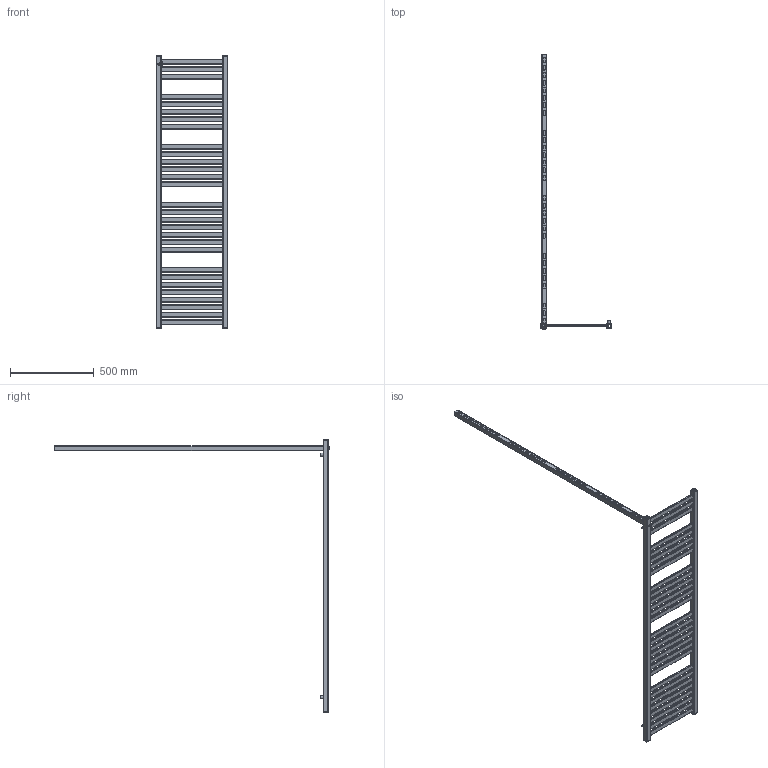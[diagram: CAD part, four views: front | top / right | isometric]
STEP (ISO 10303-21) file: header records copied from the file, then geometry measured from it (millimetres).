
FILE_DESCRIPTION( ( 'Unknown' ), '1' );
FILE_NAME( 'D:/Alplast sp. j/Witryna zespoBu - Projekty/Archiwum/Grzejniki Archiwum/Projekty/STANDARD/AK-EP/AK7-400EP.stp', 'Unknown', ( 'Unknown' ), ( 'Unknown' ), 'PSStep 10.1', 'Unknown', ' ' );
FILE_SCHEMA( ( 'AUTOMOTIVE_DESIGN { 1 0 10303 214 1 1 1 1 }' ) );
Length unit declared in the file: millimetre
Products named in the file (5): Assem1; zaslepka kwadrat otwor; AK7-EPEL; kana³  poziomy 30x10  400; mocowanie
Bounding box: 430 x 1644 x 1630.13 mm (x, y, z)
Volume: 1982732.2 mm3; surface area: 2673792.5 mm2
Topology: 43 solids, 43 shells, 1340 faces, 3732 edges, 2488 vertices
Faces by surface type: plane 748, cylinder 582, torus 10
Full cylindrical faces by diameter (mm): 16 x5, 18 x5, 18.631 x5, 23 x5
Entity records: 12451 total; most frequent: DIRECTION 1791, CARTESIAN_POINT 1738, ORIENTED_EDGE 1682, EDGE_CURVE 841, AXIS2_PLACEMENT_3D 617, VERTEX_POINT 564, LINE 557, VECTOR 557
